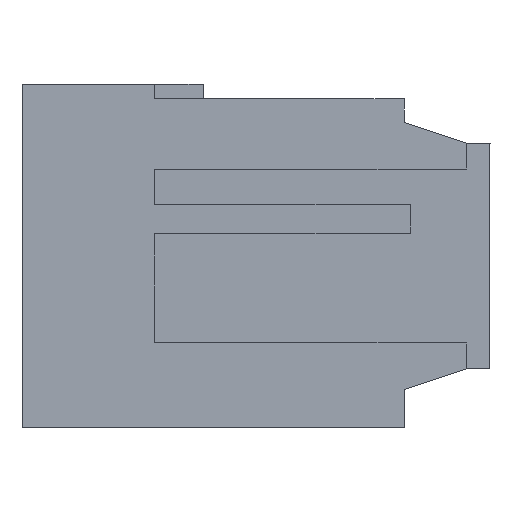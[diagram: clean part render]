
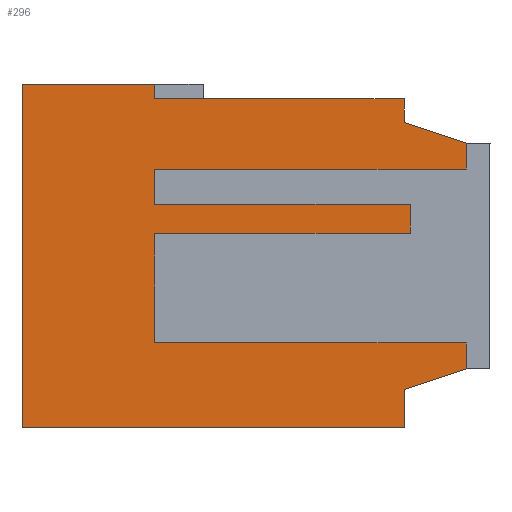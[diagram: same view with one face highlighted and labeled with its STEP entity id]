
A CAD part, left-side view. The second image highlights one B-rep face of the part: STEP entity #296.
In plain terms, the highlighted planar face has unit normal (-1, 0, 0).
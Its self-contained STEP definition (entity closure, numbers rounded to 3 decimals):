
#140=AXIS2_PLACEMENT_3D('Plane Axis2P3D',#137,#138,#139) ;
#43=CARTESIAN_POINT('Vertex',(-20.175,4.15,7.6)) ;
#46=CARTESIAN_POINT('Line Origine',(-20.175,4.15,7.025)) ;
#50=CARTESIAN_POINT('Vertex',(-20.175,4.15,6.45)) ;
#106=CARTESIAN_POINT('Vertex',(-20.175,16.2,7.6)) ;
#109=CARTESIAN_POINT('Line Origine',(-20.175,10.175,7.6)) ;
#137=CARTESIAN_POINT('Axis2P3D Location',(-20.175,23.673,-9.13)) ;
#142=CARTESIAN_POINT('Line Origine',(-20.175,16.2,0.6)) ;
#146=CARTESIAN_POINT('Vertex',(-20.175,16.2,1.1)) ;
#148=CARTESIAN_POINT('Vertex',(-20.175,16.2,0.1)) ;
#151=CARTESIAN_POINT('Line Origine',(-20.175,10.025,1.1)) ;
#155=CARTESIAN_POINT('Vertex',(-20.175,3.85,1.1)) ;
#158=CARTESIAN_POINT('Line Origine',(-20.175,3.85,1.8)) ;
#162=CARTESIAN_POINT('Vertex',(-20.175,3.85,2.5)) ;
#165=CARTESIAN_POINT('Line Origine',(-20.175,10.025,2.5)) ;
#169=CARTESIAN_POINT('Vertex',(-20.175,16.2,2.5)) ;
#172=CARTESIAN_POINT('Line Origine',(-20.175,16.2,3.35)) ;
#176=CARTESIAN_POINT('Vertex',(-20.175,16.2,4.2)) ;
#179=CARTESIAN_POINT('Line Origine',(-20.175,8.675,4.2)) ;
#183=CARTESIAN_POINT('Vertex',(-20.175,1.15,4.2)) ;
#186=CARTESIAN_POINT('Line Origine',(-20.175,1.15,4.825)) ;
#190=CARTESIAN_POINT('Vertex',(-20.175,1.15,5.45)) ;
#193=CARTESIAN_POINT('Line Origine',(-20.175,2.65,5.95)) ;
#198=CARTESIAN_POINT('Line Origine',(-20.175,16.2,7.95)) ;
#202=CARTESIAN_POINT('Vertex',(-20.175,16.2,8.3)) ;
#205=CARTESIAN_POINT('Line Origine',(-20.175,19.4,8.3)) ;
#209=CARTESIAN_POINT('Vertex',(-20.175,22.6,8.3)) ;
#212=CARTESIAN_POINT('Line Origine',(-20.175,22.6,0.)) ;
#216=CARTESIAN_POINT('Vertex',(-20.175,22.6,-8.3)) ;
#219=CARTESIAN_POINT('Line Origine',(-20.175,13.375,-8.3)) ;
#223=CARTESIAN_POINT('Vertex',(-20.175,4.15,-8.3)) ;
#226=CARTESIAN_POINT('Line Origine',(-20.175,4.15,-7.375)) ;
#230=CARTESIAN_POINT('Vertex',(-20.175,4.15,-6.45)) ;
#233=CARTESIAN_POINT('Line Origine',(-20.175,2.65,-5.95)) ;
#237=CARTESIAN_POINT('Vertex',(-20.175,1.15,-5.45)) ;
#240=CARTESIAN_POINT('Line Origine',(-20.175,1.15,-4.825)) ;
#244=CARTESIAN_POINT('Vertex',(-20.175,1.15,-4.2)) ;
#247=CARTESIAN_POINT('Line Origine',(-20.175,8.675,-4.2)) ;
#251=CARTESIAN_POINT('Vertex',(-20.175,16.2,-4.2)) ;
#254=CARTESIAN_POINT('Line Origine',(-20.175,16.2,-3.543)) ;
#258=CARTESIAN_POINT('Vertex',(-20.175,16.2,-2.887)) ;
#261=CARTESIAN_POINT('Line Origine',(-20.175,16.2,-2.093)) ;
#265=CARTESIAN_POINT('Vertex',(-20.175,16.2,-1.3)) ;
#268=CARTESIAN_POINT('Line Origine',(-20.175,16.2,-0.6)) ;
#47=DIRECTION('Vector Direction',(0.,0.,-1.)) ;
#110=DIRECTION('Vector Direction',(0.,-1.,0.)) ;
#138=DIRECTION('Axis2P3D Direction',(-1.,0.,0.)) ;
#139=DIRECTION('Axis2P3D XDirection',(0.,-1.,0.)) ;
#143=DIRECTION('Vector Direction',(0.,0.,-1.)) ;
#152=DIRECTION('Vector Direction',(0.,1.,0.)) ;
#159=DIRECTION('Vector Direction',(0.,0.,-1.)) ;
#166=DIRECTION('Vector Direction',(0.,-1.,0.)) ;
#173=DIRECTION('Vector Direction',(0.,0.,-1.)) ;
#180=DIRECTION('Vector Direction',(0.,1.,0.)) ;
#187=DIRECTION('Vector Direction',(0.,0.,-1.)) ;
#194=DIRECTION('Vector Direction',(0.,-0.949,-0.316)) ;
#199=DIRECTION('Vector Direction',(0.,0.,1.)) ;
#206=DIRECTION('Vector Direction',(0.,1.,0.)) ;
#213=DIRECTION('Vector Direction',(0.,0.,1.)) ;
#220=DIRECTION('Vector Direction',(0.,-1.,0.)) ;
#227=DIRECTION('Vector Direction',(0.,0.,-1.)) ;
#234=DIRECTION('Vector Direction',(0.,-0.949,0.316)) ;
#241=DIRECTION('Vector Direction',(0.,0.,-1.)) ;
#248=DIRECTION('Vector Direction',(0.,-1.,0.)) ;
#255=DIRECTION('Vector Direction',(0.,0.,-1.)) ;
#262=DIRECTION('Vector Direction',(0.,0.,-1.)) ;
#269=DIRECTION('Vector Direction',(0.,0.,-1.)) ;
#48=VECTOR('Line Direction',#47,1.) ;
#111=VECTOR('Line Direction',#110,1.) ;
#144=VECTOR('Line Direction',#143,1.) ;
#153=VECTOR('Line Direction',#152,1.) ;
#160=VECTOR('Line Direction',#159,1.) ;
#167=VECTOR('Line Direction',#166,1.) ;
#174=VECTOR('Line Direction',#173,1.) ;
#181=VECTOR('Line Direction',#180,1.) ;
#188=VECTOR('Line Direction',#187,1.) ;
#195=VECTOR('Line Direction',#194,1.) ;
#200=VECTOR('Line Direction',#199,1.) ;
#207=VECTOR('Line Direction',#206,1.) ;
#214=VECTOR('Line Direction',#213,1.) ;
#221=VECTOR('Line Direction',#220,1.) ;
#228=VECTOR('Line Direction',#227,1.) ;
#235=VECTOR('Line Direction',#234,1.) ;
#242=VECTOR('Line Direction',#241,1.) ;
#249=VECTOR('Line Direction',#248,1.) ;
#256=VECTOR('Line Direction',#255,1.) ;
#263=VECTOR('Line Direction',#262,1.) ;
#270=VECTOR('Line Direction',#269,1.) ;
#274=ORIENTED_EDGE('',*,*,#150,.F.) ;
#275=ORIENTED_EDGE('',*,*,#157,.F.) ;
#276=ORIENTED_EDGE('',*,*,#164,.F.) ;
#277=ORIENTED_EDGE('',*,*,#171,.F.) ;
#278=ORIENTED_EDGE('',*,*,#178,.F.) ;
#279=ORIENTED_EDGE('',*,*,#185,.F.) ;
#280=ORIENTED_EDGE('',*,*,#192,.F.) ;
#281=ORIENTED_EDGE('',*,*,#197,.F.) ;
#282=ORIENTED_EDGE('',*,*,#52,.F.) ;
#283=ORIENTED_EDGE('',*,*,#113,.F.) ;
#284=ORIENTED_EDGE('',*,*,#204,.T.) ;
#285=ORIENTED_EDGE('',*,*,#211,.T.) ;
#286=ORIENTED_EDGE('',*,*,#218,.F.) ;
#287=ORIENTED_EDGE('',*,*,#225,.T.) ;
#288=ORIENTED_EDGE('',*,*,#232,.F.) ;
#289=ORIENTED_EDGE('',*,*,#239,.T.) ;
#290=ORIENTED_EDGE('',*,*,#246,.F.) ;
#291=ORIENTED_EDGE('',*,*,#253,.F.) ;
#292=ORIENTED_EDGE('',*,*,#260,.F.) ;
#293=ORIENTED_EDGE('',*,*,#267,.F.) ;
#294=ORIENTED_EDGE('',*,*,#272,.F.) ;
#296=ADVANCED_FACE('MANIFOLD_SOLID_BREP #33',(#295),#141,.T.) ;
#52=EDGE_CURVE('',#44,#51,#49,.T.) ;
#113=EDGE_CURVE('',#107,#44,#112,.T.) ;
#150=EDGE_CURVE('',#147,#149,#145,.T.) ;
#157=EDGE_CURVE('',#156,#147,#154,.T.) ;
#164=EDGE_CURVE('',#163,#156,#161,.T.) ;
#171=EDGE_CURVE('',#170,#163,#168,.T.) ;
#178=EDGE_CURVE('',#177,#170,#175,.T.) ;
#185=EDGE_CURVE('',#184,#177,#182,.T.) ;
#192=EDGE_CURVE('',#191,#184,#189,.T.) ;
#197=EDGE_CURVE('',#51,#191,#196,.T.) ;
#204=EDGE_CURVE('',#107,#203,#201,.T.) ;
#211=EDGE_CURVE('',#203,#210,#208,.T.) ;
#218=EDGE_CURVE('',#217,#210,#215,.T.) ;
#225=EDGE_CURVE('',#217,#224,#222,.T.) ;
#232=EDGE_CURVE('',#231,#224,#229,.T.) ;
#239=EDGE_CURVE('',#231,#238,#236,.T.) ;
#246=EDGE_CURVE('',#245,#238,#243,.T.) ;
#253=EDGE_CURVE('',#252,#245,#250,.T.) ;
#260=EDGE_CURVE('',#259,#252,#257,.T.) ;
#267=EDGE_CURVE('',#266,#259,#264,.T.) ;
#272=EDGE_CURVE('',#149,#266,#271,.T.) ;
#273=EDGE_LOOP('',(#274,#275,#276,#277,#278,#279,#280,#281,#282,#283,#284,#285,#286,#287,#288,#289,#290,#291,#292,#293,#294)) ;
#295=FACE_OUTER_BOUND('',#273,.T.) ;
#49=LINE('Line',#46,#48) ;
#112=LINE('Line',#109,#111) ;
#145=LINE('Line',#142,#144) ;
#154=LINE('Line',#151,#153) ;
#161=LINE('Line',#158,#160) ;
#168=LINE('Line',#165,#167) ;
#175=LINE('Line',#172,#174) ;
#182=LINE('Line',#179,#181) ;
#189=LINE('Line',#186,#188) ;
#196=LINE('Line',#193,#195) ;
#201=LINE('Line',#198,#200) ;
#208=LINE('Line',#205,#207) ;
#215=LINE('Line',#212,#214) ;
#222=LINE('Line',#219,#221) ;
#229=LINE('Line',#226,#228) ;
#236=LINE('Line',#233,#235) ;
#243=LINE('Line',#240,#242) ;
#250=LINE('Line',#247,#249) ;
#257=LINE('Line',#254,#256) ;
#264=LINE('Line',#261,#263) ;
#271=LINE('Line',#268,#270) ;
#141=PLANE('',#140) ;
#44=VERTEX_POINT('',#43) ;
#51=VERTEX_POINT('',#50) ;
#107=VERTEX_POINT('',#106) ;
#147=VERTEX_POINT('',#146) ;
#149=VERTEX_POINT('',#148) ;
#156=VERTEX_POINT('',#155) ;
#163=VERTEX_POINT('',#162) ;
#170=VERTEX_POINT('',#169) ;
#177=VERTEX_POINT('',#176) ;
#184=VERTEX_POINT('',#183) ;
#191=VERTEX_POINT('',#190) ;
#203=VERTEX_POINT('',#202) ;
#210=VERTEX_POINT('',#209) ;
#217=VERTEX_POINT('',#216) ;
#224=VERTEX_POINT('',#223) ;
#231=VERTEX_POINT('',#230) ;
#238=VERTEX_POINT('',#237) ;
#245=VERTEX_POINT('',#244) ;
#252=VERTEX_POINT('',#251) ;
#259=VERTEX_POINT('',#258) ;
#266=VERTEX_POINT('',#265) ;
